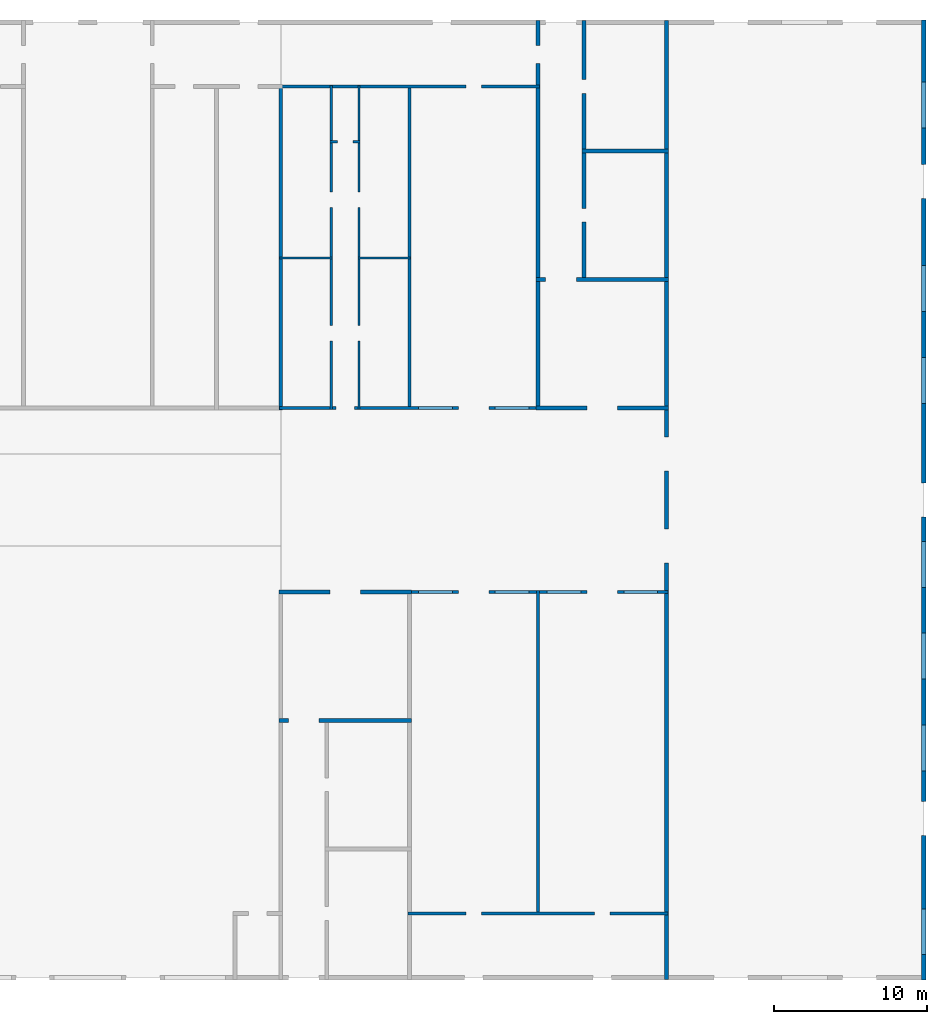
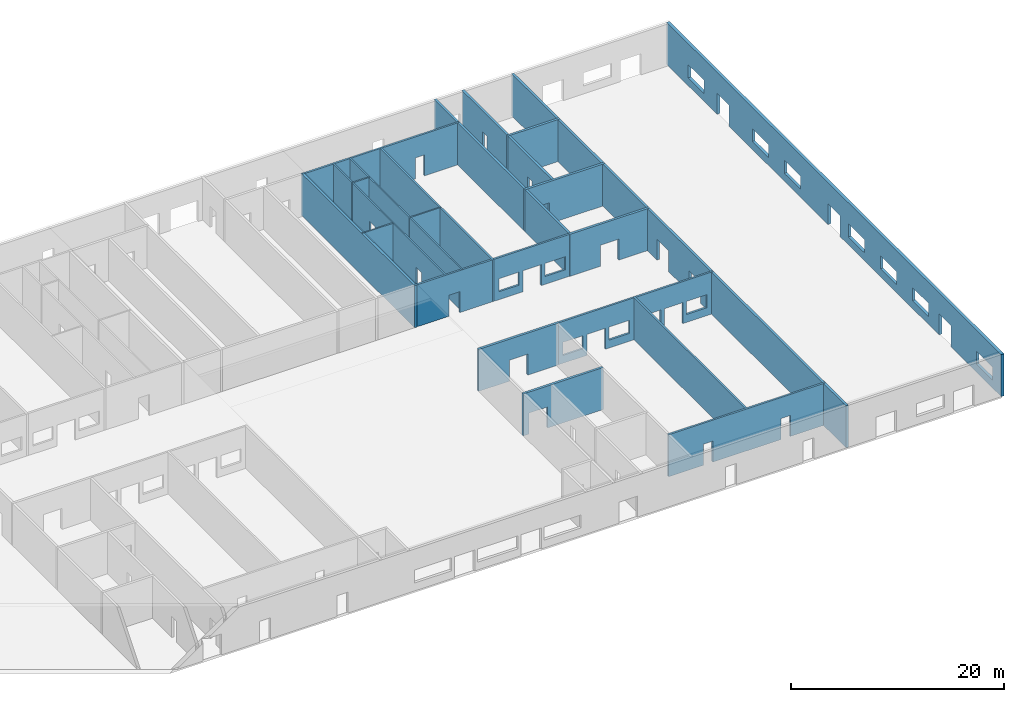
# One storey, part 3 of 3: 21 walls, 49 openings.
"""IFC4 building model written with IfcOpenShell, lengths in millimetres."""

from ifc_helpers import new_model, si_unit, frame, origin_with_axes, place, context, subcontext, project, spatial, indexed_curve, outline, extrude, type_object, element, save


model = new_model("IFC4")

# Units and contexts
model_context = context("Model", 3, precision=1e-05, world=origin_with_axes())
body_context = subcontext(model_context, "Body", "Model", "MODEL_VIEW")
ifc_project = project(units=[si_unit("AREAUNIT", "SQUARE_METRE"), si_unit("VOLUMEUNIT", "CUBIC_METRE"), si_unit("LENGTHUNIT", "METRE", prefix="MILLI")], contexts=[model_context])

# Site, building, storey
site = spatial("IfcSite", under=ifc_project, Name="PIN 00000000 (sample)")
building = spatial("IfcBuilding", under=site, Name="Sample Shopping Mall")
storey = spatial("IfcBuildingStorey", under=building, Name="Ground Floor", Elevation=0.0)

# Wall, openings
wall_type_1 = type_object("IfcWallType", Name="WT-300", PredefinedType="SOLIDWALL")
wall_1_placement = place(None, frame((114750.0, 15449.999999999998, 0.0), z_axis=(0.0, 0.0, 1.0), x_axis=(6.123233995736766e-17, 1.0, 0.0)))
wall_1 = element("IfcWall", 1, at=wall_1_placement, inside=storey, type_object=wall_type_1, Name="W59", context=body_context, shape_type="SweptSolid", body=[
    extrude(outline(indexed_curve([(0.0, 0.0), (0.0, 300.0), (62699.99999999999, 300.0), (62699.99999999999, 0.0), (0.0, 0.0)], self_intersect=False)), origin_with_axes(), (0.0, 0.0, 1.0), 4800.0),
])
opening_1_placement = place(wall_1_placement, frame((9450.0, -99.99999999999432, 0.0), z_axis=(0.0, 0.0, 1.0), x_axis=(1.0, 0.0, 0.0)))
element("IfcOpeningElement", 2, at=opening_1_placement, cuts=wall_1, Name="D16-opening", context=body_context, shape_type="SweptSolid", body=[
    extrude(outline(indexed_curve([(0.0, 0.0), (0.0, 500.0), (1100.0, 500.0), (1100.0, 0.0), (0.0, 0.0)], self_intersect=False)), origin_with_axes(), (0.0, 0.0, 1.0), 2400.0),
])
opening_2_placement = place(wall_1_placement, frame((10550.0, -99.99999999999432, 0.0), z_axis=(0.0, 0.0, 1.0), x_axis=(1.0, 0.0, 0.0)))
element("IfcOpeningElement", 3, at=opening_2_placement, cuts=wall_1, Name="-opening", context=body_context, shape_type="SweptSolid", body=[
    extrude(outline(indexed_curve([(0.0, 0.0), (0.0, 500.0), (1100.0, 500.0), (1100.0, 0.0), (0.0, 0.0)], self_intersect=False)), origin_with_axes(), (0.0, 0.0, 1.0), 2400.0),
])
opening_3_placement = place(wall_1_placement, frame((30250.000000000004, -99.99999999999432, 0.0), z_axis=(0.0, 0.0, 1.0), x_axis=(1.0, 0.0, 0.0)))
element("IfcOpeningElement", 4, at=opening_3_placement, cuts=wall_1, Name="D17-opening", context=body_context, shape_type="SweptSolid", body=[
    extrude(outline(indexed_curve([(0.0, 0.0), (0.0, 500.0), (1100.0, 500.0), (1100.0, 0.0), (0.0, 0.0)], self_intersect=False)), origin_with_axes(), (0.0, 0.0, 1.0), 2400.0),
])
opening_4_placement = place(wall_1_placement, frame((31349.999999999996, -99.99999999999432, 0.0), z_axis=(0.0, 0.0, 1.0), x_axis=(1.0, 0.0, 0.0)))
element("IfcOpeningElement", 5, at=opening_4_placement, cuts=wall_1, Name="-opening", context=body_context, shape_type="SweptSolid", body=[
    extrude(outline(indexed_curve([(0.0, 0.0), (0.0, 500.0), (1100.0, 500.0), (1100.0, 0.0), (0.0, 0.0)], self_intersect=False)), origin_with_axes(), (0.0, 0.0, 1.0), 2400.0),
])
opening_5_placement = place(wall_1_placement, frame((51049.99999999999, -99.99999999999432, 0.0), z_axis=(0.0, 0.0, 1.0), x_axis=(1.0, 0.0, 0.0)))
element("IfcOpeningElement", 6, at=opening_5_placement, cuts=wall_1, Name="D18-opening", context=body_context, shape_type="SweptSolid", body=[
    extrude(outline(indexed_curve([(0.0, 0.0), (0.0, 500.0), (1100.0, 500.0), (1100.0, 0.0), (0.0, 0.0)], self_intersect=False)), origin_with_axes(), (0.0, 0.0, 1.0), 2400.0),
])
opening_6_placement = place(wall_1_placement, frame((52149.99999999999, -99.99999999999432, 0.0), z_axis=(0.0, 0.0, 1.0), x_axis=(1.0, 0.0, 0.0)))
element("IfcOpeningElement", 7, at=opening_6_placement, cuts=wall_1, Name="-opening", context=body_context, shape_type="SweptSolid", body=[
    extrude(outline(indexed_curve([(0.0, 0.0), (0.0, 500.0), (1100.0, 500.0), (1100.0, 0.0), (0.0, 0.0)], self_intersect=False)), origin_with_axes(), (0.0, 0.0, 1.0), 2400.0),
])
opening_7_placement = place(wall_1_placement, frame((1650.000000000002, -99.99999999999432, 900.0), z_axis=(0.0, 0.0, 1.0), x_axis=(1.0, 0.0, 0.0)))
element("IfcOpeningElement", 8, at=opening_7_placement, cuts=wall_1, Name="-opening", context=body_context, shape_type="SweptSolid", body=[
    extrude(outline(indexed_curve([(0.0, 0.0), (0.0, 500.0), (3000.0, 500.0), (3000.0, 0.0), (0.0, 0.0)], self_intersect=False)), origin_with_axes(), (0.0, 0.0, 1.0), 1500.0),
])
opening_8_placement = place(wall_1_placement, frame((13650.000000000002, -99.99999999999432, 900.0), z_axis=(0.0, 0.0, 1.0), x_axis=(1.0, 0.0, 0.0)))
element("IfcOpeningElement", 9, at=opening_8_placement, cuts=wall_1, Name="-opening", context=body_context, shape_type="SweptSolid", body=[
    extrude(outline(indexed_curve([(0.0, 0.0), (0.0, 500.0), (3000.0, 500.0), (3000.0, 0.0), (0.0, 0.0)], self_intersect=False)), origin_with_axes(), (0.0, 0.0, 1.0), 1500.0),
])
opening_9_placement = place(wall_1_placement, frame((19650.0, -99.99999999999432, 900.0), z_axis=(0.0, 0.0, 1.0), x_axis=(1.0, 0.0, 0.0)))
element("IfcOpeningElement", 10, at=opening_9_placement, cuts=wall_1, Name="-opening", context=body_context, shape_type="SweptSolid", body=[
    extrude(outline(indexed_curve([(0.0, 0.0), (0.0, 500.0), (3000.0, 500.0), (3000.0, 0.0), (0.0, 0.0)], self_intersect=False)), origin_with_axes(), (0.0, 0.0, 1.0), 1500.0),
])
opening_10_placement = place(wall_1_placement, frame((25650.0, -99.99999999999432, 900.0), z_axis=(0.0, 0.0, 1.0), x_axis=(1.0, 0.0, 0.0)))
element("IfcOpeningElement", 11, at=opening_10_placement, cuts=wall_1, Name="-opening", context=body_context, shape_type="SweptSolid", body=[
    extrude(outline(indexed_curve([(0.0, 0.0), (0.0, 500.0), (3000.0, 500.0), (3000.0, 0.0), (0.0, 0.0)], self_intersect=False)), origin_with_axes(), (0.0, 0.0, 1.0), 1500.0),
])
opening_11_placement = place(wall_1_placement, frame((37650.00000000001, -99.99999999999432, 900.0), z_axis=(0.0, 0.0, 1.0), x_axis=(1.0, 0.0, 0.0)))
element("IfcOpeningElement", 12, at=opening_11_placement, cuts=wall_1, Name="-opening", context=body_context, shape_type="SweptSolid", body=[
    extrude(outline(indexed_curve([(0.0, 0.0), (0.0, 500.0), (3000.0, 500.0), (3000.0, 0.0), (0.0, 0.0)], self_intersect=False)), origin_with_axes(), (0.0, 0.0, 1.0), 1500.0),
])
opening_12_placement = place(wall_1_placement, frame((43650.00000000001, -99.99999999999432, 900.0), z_axis=(0.0, 0.0, 1.0), x_axis=(1.0, 0.0, 0.0)))
element("IfcOpeningElement", 13, at=opening_12_placement, cuts=wall_1, Name="-opening", context=body_context, shape_type="SweptSolid", body=[
    extrude(outline(indexed_curve([(0.0, 0.0), (0.0, 500.0), (3000.0, 500.0), (3000.0, 0.0), (0.0, 0.0)], self_intersect=False)), origin_with_axes(), (0.0, 0.0, 1.0), 1500.0),
])
opening_13_placement = place(wall_1_placement, frame((55650.00000000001, -99.99999999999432, 900.0), z_axis=(0.0, 0.0, 1.0), x_axis=(1.0, 0.0, 0.0)))
element("IfcOpeningElement", 14, at=opening_13_placement, cuts=wall_1, Name="-opening", context=body_context, shape_type="SweptSolid", body=[
    extrude(outline(indexed_curve([(0.0, 0.0), (0.0, 500.0), (3000.0, 500.0), (3000.0, 0.0), (0.0, 0.0)], self_intersect=False)), origin_with_axes(), (0.0, 0.0, 1.0), 1500.0),
])

wall_type_2 = type_object("IfcWallType", Name="WT-200", PredefinedType="SOLIDWALL")
wall_2_placement = place(None, frame((80900.0, 19700.0, 0.0), z_axis=(0.0, 0.0, 1.0), x_axis=(1.0, 0.0, 0.0)))
wall_2 = element("IfcWall", 15, at=wall_2_placement, inside=storey, type_object=wall_type_2, Name="W4", context=body_context, shape_type="SweptSolid", body=[
    extrude(outline(indexed_curve([(0.0, 0.0), (0.0, 200.0), (16999.999999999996, 200.0), (16999.999999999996, 0.0), (0.0, 0.0)], self_intersect=False)), origin_with_axes(), (0.0, 0.0, 1.0), 4800.0),
])
opening_14_placement = place(wall_2_placement, frame((3799.9999999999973, -99.99999999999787, 0.0), z_axis=(0.0, 0.0, 1.0), x_axis=(1.0, 0.0, 0.0)))
element("IfcOpeningElement", 16, at=opening_14_placement, cuts=wall_2, Name="-opening", context=body_context, shape_type="SweptSolid", body=[
    extrude(outline(indexed_curve([(0.0, 0.0), (0.0, 400.0), (1000.0, 400.0), (1000.0, 0.0), (0.0, 0.0)], self_intersect=False)), origin_with_axes(), (0.0, 0.0, 1.0), 2400.0),
])
opening_15_placement = place(wall_2_placement, frame((12199.999999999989, -99.99999999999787, 0.0), z_axis=(0.0, 0.0, 1.0), x_axis=(1.0, 0.0, 0.0)))
element("IfcOpeningElement", 17, at=opening_15_placement, cuts=wall_2, Name="-opening", context=body_context, shape_type="SweptSolid", body=[
    extrude(outline(indexed_curve([(0.0, 0.0), (0.0, 400.0), (1000.0, 400.0), (1000.0, 0.0), (0.0, 0.0)], self_intersect=False)), origin_with_axes(), (0.0, 0.0, 1.0), 2400.0),
])

wall_3_placement = place(None, frame((80900.0, 40699.99999999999, 0.0), z_axis=(0.0, 0.0, 1.0), x_axis=(1.0, 0.0, 0.0)))
wall_3 = element("IfcWall", 18, at=wall_3_placement, inside=storey, type_object=wall_type_2, Name="W12", context=body_context, shape_type="SweptSolid", body=[
    extrude(outline(indexed_curve([(0.0, 0.0), (0.0, 200.0), (16999.999999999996, 200.0), (16999.999999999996, 0.0), (0.0, 0.0)], self_intersect=False)), origin_with_axes(), (0.0, 0.0, 1.0), 4800.0),
])
opening_16_placement = place(wall_3_placement, frame((3299.9999999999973, -100.00000000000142, 0.0), z_axis=(0.0, 0.0, 1.0), x_axis=(1.0, 0.0, 0.0)))
element("IfcOpeningElement", 19, at=opening_16_placement, cuts=wall_3, Name="D46-opening", context=body_context, shape_type="SweptSolid", body=[
    extrude(outline(indexed_curve([(0.0, 0.0), (0.0, 400.0), (1000.0, 400.0), (1000.0, 0.0), (0.0, 0.0)], self_intersect=False)), origin_with_axes(), (0.0, 0.0, 1.0), 2400.0),
])
opening_17_placement = place(wall_3_placement, frame((4299.999999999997, -100.00000000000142, 0.0), z_axis=(0.0, 0.0, 1.0), x_axis=(1.0, 0.0, 0.0)))
element("IfcOpeningElement", 20, at=opening_17_placement, cuts=wall_3, Name="-opening", context=body_context, shape_type="SweptSolid", body=[
    extrude(outline(indexed_curve([(0.0, 0.0), (0.0, 400.0), (1000.0, 400.0), (1000.0, 0.0), (0.0, 0.0)], self_intersect=False)), origin_with_axes(), (0.0, 0.0, 1.0), 2400.0),
])
opening_18_placement = place(wall_3_placement, frame((11699.999999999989, -100.00000000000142, 0.0), z_axis=(0.0, 0.0, 1.0), x_axis=(1.0, 0.0, 0.0)))
element("IfcOpeningElement", 21, at=opening_18_placement, cuts=wall_3, Name="D48-opening", context=body_context, shape_type="SweptSolid", body=[
    extrude(outline(indexed_curve([(0.0, 0.0), (0.0, 400.0), (1000.0, 400.0), (1000.0, 0.0), (0.0, 0.0)], self_intersect=False)), origin_with_axes(), (0.0, 0.0, 1.0), 2400.0),
])
opening_19_placement = place(wall_3_placement, frame((12699.999999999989, -100.00000000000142, 0.0), z_axis=(0.0, 0.0, 1.0), x_axis=(1.0, 0.0, 0.0)))
element("IfcOpeningElement", 22, at=opening_19_placement, cuts=wall_3, Name="-opening", context=body_context, shape_type="SweptSolid", body=[
    extrude(outline(indexed_curve([(0.0, 0.0), (0.0, 400.0), (1000.0, 400.0), (1000.0, 0.0), (0.0, 0.0)], self_intersect=False)), origin_with_axes(), (0.0, 0.0, 1.0), 2400.0),
])
opening_20_placement = place(wall_3_placement, frame((699.9999999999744, -100.00000000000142, 900.0), z_axis=(0.0, 0.0, 1.0), x_axis=(1.0, 0.0, 0.0)))
element("IfcOpeningElement", 23, at=opening_20_placement, cuts=wall_3, Name="-opening", context=body_context, shape_type="SweptSolid", body=[
    extrude(outline(indexed_curve([(0.0, 0.0), (0.0, 400.0), (2200.0, 400.0), (2200.0, 0.0), (0.0, 0.0)], self_intersect=False)), origin_with_axes(), (0.0, 0.0, 1.0), 1500.0),
])
opening_21_placement = place(wall_3_placement, frame((5699.999999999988, -100.00000000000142, 900.0), z_axis=(0.0, 0.0, 1.0), x_axis=(1.0, 0.0, 0.0)))
element("IfcOpeningElement", 24, at=opening_21_placement, cuts=wall_3, Name="-opening", context=body_context, shape_type="SweptSolid", body=[
    extrude(outline(indexed_curve([(0.0, 0.0), (0.0, 400.0), (2200.0, 400.0), (2200.0, 0.0), (0.0, 0.0)], self_intersect=False)), origin_with_axes(), (0.0, 0.0, 1.0), 1500.0),
])
opening_22_placement = place(wall_3_placement, frame((9099.999999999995, -100.00000000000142, 900.0), z_axis=(0.0, 0.0, 1.0), x_axis=(1.0, 0.0, 0.0)))
element("IfcOpeningElement", 25, at=opening_22_placement, cuts=wall_3, Name="-opening", context=body_context, shape_type="SweptSolid", body=[
    extrude(outline(indexed_curve([(0.0, 0.0), (0.0, 400.0), (2200.0, 400.0), (2200.0, 0.0), (0.0, 0.0)], self_intersect=False)), origin_with_axes(), (0.0, 0.0, 1.0), 1500.0),
])
opening_23_placement = place(wall_3_placement, frame((14099.999999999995, -100.00000000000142, 900.0), z_axis=(0.0, 0.0, 1.0), x_axis=(1.0, 0.0, 0.0)))
element("IfcOpeningElement", 26, at=opening_23_placement, cuts=wall_3, Name="-opening", context=body_context, shape_type="SweptSolid", body=[
    extrude(outline(indexed_curve([(0.0, 0.0), (0.0, 400.0), (2200.0, 400.0), (2200.0, 0.0), (0.0, 0.0)], self_intersect=False)), origin_with_axes(), (0.0, 0.0, 1.0), 1500.0),
])

wall_4_placement = place(None, frame((72500.0, 52699.99999999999, 0.0), z_axis=(0.0, 0.0, 1.0), x_axis=(1.0, 0.0, 0.0)))
wall_4 = element("IfcWall", 27, at=wall_4_placement, inside=storey, type_object=wall_type_2, Name="W15", context=body_context, shape_type="SweptSolid", body=[
    extrude(outline(indexed_curve([(0.0, 0.0), (0.0, 200.0), (17000.00000000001, 200.0), (17000.00000000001, 0.0), (0.0, 0.0)], self_intersect=False)), origin_with_axes(), (0.0, 0.0, 1.0), 4800.0),
])
opening_24_placement = place(wall_4_placement, frame((3699.9999999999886, -100.00000000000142, 0.0), z_axis=(0.0, 0.0, 1.0), x_axis=(1.0, 0.0, 0.0)))
element("IfcOpeningElement", 28, at=opening_24_placement, cuts=wall_4, Name="D68-opening", context=body_context, shape_type="SweptSolid", body=[
    extrude(outline(indexed_curve([(0.0, 0.0), (0.0, 400.0), (1200.0, 400.0), (1200.0, 0.0), (0.0, 0.0)], self_intersect=False)), origin_with_axes(), (0.0, 0.0, 1.0), 2400.0),
])
opening_25_placement = place(wall_4_placement, frame((11699.999999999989, -100.00000000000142, 0.0), z_axis=(0.0, 0.0, 1.0), x_axis=(1.0, 0.0, 0.0)))
element("IfcOpeningElement", 29, at=opening_25_placement, cuts=wall_4, Name="D74-opening", context=body_context, shape_type="SweptSolid", body=[
    extrude(outline(indexed_curve([(0.0, 0.0), (0.0, 400.0), (1000.0, 400.0), (1000.0, 0.0), (0.0, 0.0)], self_intersect=False)), origin_with_axes(), (0.0, 0.0, 1.0), 2400.0),
])
opening_26_placement = place(wall_4_placement, frame((12699.999999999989, -100.00000000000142, 0.0), z_axis=(0.0, 0.0, 1.0), x_axis=(1.0, 0.0, 0.0)))
element("IfcOpeningElement", 30, at=opening_26_placement, cuts=wall_4, Name="-opening", context=body_context, shape_type="SweptSolid", body=[
    extrude(outline(indexed_curve([(0.0, 0.0), (0.0, 400.0), (1000.0, 400.0), (1000.0, 0.0), (0.0, 0.0)], self_intersect=False)), origin_with_axes(), (0.0, 0.0, 1.0), 2400.0),
])
opening_27_placement = place(wall_4_placement, frame((9099.99999999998, -100.00000000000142, 900.0), z_axis=(0.0, 0.0, 1.0), x_axis=(1.0, 0.0, 0.0)))
element("IfcOpeningElement", 31, at=opening_27_placement, cuts=wall_4, Name="-opening", context=body_context, shape_type="SweptSolid", body=[
    extrude(outline(indexed_curve([(0.0, 0.0), (0.0, 400.0), (2200.0, 400.0), (2200.0, 0.0), (0.0, 0.0)], self_intersect=False)), origin_with_axes(), (0.0, 0.0, 1.0), 1500.0),
])
opening_28_placement = place(wall_4_placement, frame((14099.999999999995, -100.00000000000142, 900.0), z_axis=(0.0, 0.0, 1.0), x_axis=(1.0, 0.0, 0.0)))
element("IfcOpeningElement", 32, at=opening_28_placement, cuts=wall_4, Name="-opening", context=body_context, shape_type="SweptSolid", body=[
    extrude(outline(indexed_curve([(0.0, 0.0), (0.0, 400.0), (2200.0, 400.0), (2200.0, 0.0), (0.0, 0.0)], self_intersect=False)), origin_with_axes(), (0.0, 0.0, 1.0), 1500.0),
])

# Wall, opening
wall_5_placement = place(None, frame((72500.0, 73700.0, 0.0), z_axis=(0.0, 0.0, 1.0), x_axis=(1.0, 0.0, 0.0)))
wall_5 = element("IfcWall", 33, at=wall_5_placement, inside=storey, type_object=wall_type_2, Name="W28", context=body_context, shape_type="SweptSolid", body=[
    extrude(outline(indexed_curve([(0.0, 0.0), (0.0, 200.0), (17000.00000000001, 200.0), (17000.00000000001, 0.0), (0.0, 0.0)], self_intersect=False)), origin_with_axes(), (0.0, 0.0, 1.0), 4800.0),
])
opening_29_placement = place(wall_5_placement, frame((12199.999999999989, -99.99999999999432, 0.0), z_axis=(0.0, 0.0, 1.0), x_axis=(1.0, 0.0, 0.0)))
element("IfcOpeningElement", 34, at=opening_29_placement, cuts=wall_5, Name="-opening", context=body_context, shape_type="SweptSolid", body=[
    extrude(outline(indexed_curve([(0.0, 0.0), (0.0, 400.0), (1000.0, 400.0), (1000.0, 0.0), (0.0, 0.0)], self_intersect=False)), origin_with_axes(), (0.0, 0.0, 1.0), 2400.0),
])

# Walls
wall_6_placement = place(None, frame((81099.99999999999, 52699.99999999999, 0.0), z_axis=(0.0, 0.0, 1.0), x_axis=(6.123233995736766e-17, 1.0, 0.0)))
element("IfcWall", 35, at=wall_6_placement, inside=storey, type_object=wall_type_2, Name="W54", context=body_context, shape_type="SweptSolid", body=[
    extrude(outline(indexed_curve([(0.0, 0.0), (0.0, 200.0), (21200.0, 200.0), (21200.0, 0.0), (0.0, 0.0)], self_intersect=False)), origin_with_axes(), (0.0, 0.0, 1.0), 4800.0),
])
wall_7_placement = place(None, frame((89500.0, 19700.0, 0.0), z_axis=(0.0, 0.0, 1.0), x_axis=(6.123233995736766e-17, 1.0, 0.0)))
element("IfcWall", 36, at=wall_7_placement, inside=storey, type_object=wall_type_2, Name="W55", context=body_context, shape_type="SweptSolid", body=[
    extrude(outline(indexed_curve([(0.0, 0.0), (0.0, 200.0), (21199.999999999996, 200.0), (21199.999999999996, 0.0), (0.0, 0.0)], self_intersect=False)), origin_with_axes(), (0.0, 0.0, 1.0), 4800.0),
])

# Wall, openings
wall_type_3 = type_object("IfcWallType", Name="WT-250", PredefinedType="SOLIDWALL")
wall_8_placement = place(None, frame((72475.0, 32274.999999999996, 0.0), z_axis=(0.0, 0.0, 1.0), x_axis=(1.0, 0.0, 0.0)))
wall_8 = element("IfcWall", 37, at=wall_8_placement, inside=storey, type_object=wall_type_3, Name="W8", context=body_context, shape_type="SweptSolid", body=[
    extrude(outline(indexed_curve([(0.0, 0.0), (0.0, 250.0), (8650.000000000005, 250.0), (8650.000000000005, 0.0), (0.0, 0.0)], self_intersect=False)), origin_with_axes(), (0.0, 0.0, 1.0), 4800.0),
])
opening_30_placement = place(wall_8_placement, frame((625.0, -100.00000000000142, 0.0), z_axis=(0.0, 0.0, 1.0), x_axis=(1.0, 0.0, 0.0)))
element("IfcOpeningElement", 38, at=opening_30_placement, cuts=wall_8, Name="D42-opening", context=body_context, shape_type="SweptSolid", body=[
    extrude(outline(indexed_curve([(0.0, 0.0), (0.0, 450.0), (1000.0, 450.0), (1000.0, 0.0), (0.0, 0.0)], self_intersect=False)), origin_with_axes(), (0.0, 0.0, 1.0), 2400.0),
])
opening_31_placement = place(wall_8_placement, frame((1625.0, -100.00000000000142, 0.0), z_axis=(0.0, 0.0, 1.0), x_axis=(1.0, 0.0, 0.0)))
element("IfcOpeningElement", 39, at=opening_31_placement, cuts=wall_8, Name="-opening", context=body_context, shape_type="SweptSolid", body=[
    extrude(outline(indexed_curve([(0.0, 0.0), (0.0, 450.0), (1000.0, 450.0), (1000.0, 0.0), (0.0, 0.0)], self_intersect=False)), origin_with_axes(), (0.0, 0.0, 1.0), 2400.0),
])

wall_9_placement = place(None, frame((72475.0, 40674.99999999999, 0.0), z_axis=(0.0, 0.0, 1.0), x_axis=(1.0, 0.0, 0.0)))
wall_9 = element("IfcWall", 40, at=wall_9_placement, inside=storey, type_object=wall_type_3, Name="W11", context=body_context, shape_type="SweptSolid", body=[
    extrude(outline(indexed_curve([(0.0, 0.0), (0.0, 250.0), (8650.000000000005, 250.0), (8650.000000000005, 0.0), (0.0, 0.0)], self_intersect=False)), origin_with_axes(), (0.0, 0.0, 1.0), 4800.0),
])
opening_32_placement = place(wall_9_placement, frame((3324.9999999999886, -99.99999999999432, 0.0), z_axis=(0.0, 0.0, 1.0), x_axis=(1.0, 0.0, 0.0)))
element("IfcOpeningElement", 41, at=opening_32_placement, cuts=wall_9, Name="D41-opening", context=body_context, shape_type="SweptSolid", body=[
    extrude(outline(indexed_curve([(0.0, 0.0), (0.0, 450.0), (1000.0, 450.0), (1000.0, 0.0), (0.0, 0.0)], self_intersect=False)), origin_with_axes(), (0.0, 0.0, 1.0), 2400.0),
])
opening_33_placement = place(wall_9_placement, frame((4324.999999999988, -99.99999999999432, 0.0), z_axis=(0.0, 0.0, 1.0), x_axis=(1.0, 0.0, 0.0)))
element("IfcOpeningElement", 42, at=opening_33_placement, cuts=wall_9, Name="-opening", context=body_context, shape_type="SweptSolid", body=[
    extrude(outline(indexed_curve([(0.0, 0.0), (0.0, 450.0), (1000.0, 450.0), (1000.0, 0.0), (0.0, 0.0)], self_intersect=False)), origin_with_axes(), (0.0, 0.0, 1.0), 2400.0),
])

wall_10_placement = place(None, frame((89275.0, 52674.99999999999, 0.0), z_axis=(0.0, 0.0, 1.0), x_axis=(1.0, 0.0, 0.0)))
wall_10 = element("IfcWall", 43, at=wall_10_placement, inside=storey, type_object=wall_type_3, Name="W16", context=body_context, shape_type="SweptSolid", body=[
    extrude(outline(indexed_curve([(0.0, 0.0), (0.0, 250.0), (8649.99999999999, 250.0), (8649.99999999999, 0.0), (0.0, 0.0)], self_intersect=False)), origin_with_axes(), (0.0, 0.0, 1.0), 4800.0),
])
opening_34_placement = place(wall_10_placement, frame((3325.0000000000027, -100.00000000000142, 0.0), z_axis=(0.0, 0.0, 1.0), x_axis=(1.0, 0.0, 0.0)))
element("IfcOpeningElement", 44, at=opening_34_placement, cuts=wall_10, Name="D76-opening", context=body_context, shape_type="SweptSolid", body=[
    extrude(outline(indexed_curve([(0.0, 0.0), (0.0, 450.0), (1000.0, 450.0), (1000.0, 0.0), (0.0, 0.0)], self_intersect=False)), origin_with_axes(), (0.0, 0.0, 1.0), 2400.0),
])
opening_35_placement = place(wall_10_placement, frame((4325.000000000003, -100.00000000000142, 0.0), z_axis=(0.0, 0.0, 1.0), x_axis=(1.0, 0.0, 0.0)))
element("IfcOpeningElement", 45, at=opening_35_placement, cuts=wall_10, Name="-opening", context=body_context, shape_type="SweptSolid", body=[
    extrude(outline(indexed_curve([(0.0, 0.0), (0.0, 450.0), (1000.0, 450.0), (1000.0, 0.0), (0.0, 0.0)], self_intersect=False)), origin_with_axes(), (0.0, 0.0, 1.0), 2400.0),
])

wall_11_placement = place(None, frame((89275.0, 61075.0, 0.0), z_axis=(0.0, 0.0, 1.0), x_axis=(1.0, 0.0, 0.0)))
wall_11 = element("IfcWall", 46, at=wall_11_placement, inside=storey, type_object=wall_type_3, Name="W17", context=body_context, shape_type="SweptSolid", body=[
    extrude(outline(indexed_curve([(0.0, 0.0), (0.0, 250.0), (8649.99999999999, 250.0), (8649.99999999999, 0.0), (0.0, 0.0)], self_intersect=False)), origin_with_axes(), (0.0, 0.0, 1.0), 4800.0),
])
opening_36_placement = place(wall_11_placement, frame((625.0, -100.00000000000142, 0.0), z_axis=(0.0, 0.0, 1.0), x_axis=(1.0, 0.0, 0.0)))
element("IfcOpeningElement", 47, at=opening_36_placement, cuts=wall_11, Name="D77-opening", context=body_context, shape_type="SweptSolid", body=[
    extrude(outline(indexed_curve([(0.0, 0.0), (0.0, 450.0), (1000.0, 450.0), (1000.0, 0.0), (0.0, 0.0)], self_intersect=False)), origin_with_axes(), (0.0, 0.0, 1.0), 2400.0),
])
opening_37_placement = place(wall_11_placement, frame((1625.0, -100.00000000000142, 0.0), z_axis=(0.0, 0.0, 1.0), x_axis=(1.0, 0.0, 0.0)))
element("IfcOpeningElement", 48, at=opening_37_placement, cuts=wall_11, Name="-opening", context=body_context, shape_type="SweptSolid", body=[
    extrude(outline(indexed_curve([(0.0, 0.0), (0.0, 450.0), (1000.0, 450.0), (1000.0, 0.0), (0.0, 0.0)], self_intersect=False)), origin_with_axes(), (0.0, 0.0, 1.0), 2400.0),
])

# Walls
wall_12_placement = place(None, frame((92275.0, 69475.0, 0.0), z_axis=(0.0, 0.0, 1.0), x_axis=(1.0, 0.0, 0.0)))
element("IfcWall", 49, at=wall_12_placement, inside=storey, type_object=wall_type_3, Name="W22", context=body_context, shape_type="SweptSolid", body=[
    extrude(outline(indexed_curve([(0.0, 0.0), (0.0, 250.0), (5649.999999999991, 250.0), (5649.999999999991, 0.0), (0.0, 0.0)], self_intersect=False)), origin_with_axes(), (0.0, 0.0, 1.0), 4800.0),
])
wall_13_placement = place(None, frame((72725.0, 52674.99999999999, 0.0), z_axis=(0.0, 0.0, 1.0), x_axis=(6.123233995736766e-17, 1.0, 0.0)))
element("IfcWall", 50, at=wall_13_placement, inside=storey, type_object=wall_type_3, Name="W49", context=body_context, shape_type="SweptSolid", body=[
    extrude(outline(indexed_curve([(0.0, 0.0), (0.0, 250.0), (21250.0, 250.0), (21250.0, 0.0), (0.0, 0.0)], self_intersect=False)), origin_with_axes(), (0.0, 0.0, 1.0), 4800.0),
])

# Wall, opening
wall_14_placement = place(None, frame((89525.0, 52674.99999999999, 0.0), z_axis=(0.0, 0.0, 1.0), x_axis=(6.123233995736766e-17, 1.0, 0.0)))
wall_14 = element("IfcWall", 51, at=wall_14_placement, inside=storey, type_object=wall_type_3, Name="W56", context=body_context, shape_type="SweptSolid", body=[
    extrude(outline(indexed_curve([(0.0, 0.0), (0.0, 250.0), (25450.000000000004, 250.0), (25450.000000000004, 0.0), (0.0, 0.0)], self_intersect=False)), origin_with_axes(), (0.0, 0.0, 1.0), 4800.0),
])
opening_38_placement = place(wall_14_placement, frame((22624.999999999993, -99.99999999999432, 0.0), z_axis=(0.0, 0.0, 1.0), x_axis=(1.0, 0.0, 0.0)))
element("IfcOpeningElement", 52, at=opening_38_placement, cuts=wall_14, Name="-opening", context=body_context, shape_type="SweptSolid", body=[
    extrude(outline(indexed_curve([(0.0, 0.0), (0.0, 450.0), (1200.0, 450.0), (1200.0, 0.0), (0.0, 0.0)], self_intersect=False)), origin_with_axes(), (0.0, 0.0, 1.0), 2400.0),
])

# Wall, openings
wall_15_placement = place(None, frame((92525.0, 61075.0, 0.0), z_axis=(0.0, 0.0, 1.0), x_axis=(6.123233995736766e-17, 1.0, 0.0)))
wall_15 = element("IfcWall", 53, at=wall_15_placement, inside=storey, type_object=wall_type_3, Name="W57", context=body_context, shape_type="SweptSolid", body=[
    extrude(outline(indexed_curve([(0.0, 0.0), (0.0, 250.0), (17049.999999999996, 250.0), (17049.999999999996, 0.0), (0.0, 0.0)], self_intersect=False)), origin_with_axes(), (0.0, 0.0, 1.0), 4800.0),
])
opening_39_placement = place(wall_15_placement, frame((3874.9999999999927, -99.99999999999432, 0.0), z_axis=(0.0, 0.0, 1.0), x_axis=(1.0, 0.0, 0.0)))
element("IfcOpeningElement", 54, at=opening_39_placement, cuts=wall_15, Name="-opening", context=body_context, shape_type="SweptSolid", body=[
    extrude(outline(indexed_curve([(0.0, 0.0), (0.0, 450.0), (900.0, 450.0), (900.0, 0.0), (0.0, 0.0)], self_intersect=False)), origin_with_axes(), (0.0, 0.0, 1.0), 2400.0),
])
opening_40_placement = place(wall_15_placement, frame((12274.999999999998, -99.99999999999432, 0.0), z_axis=(0.0, 0.0, 1.0), x_axis=(1.0, 0.0, 0.0)))
element("IfcOpeningElement", 55, at=opening_40_placement, cuts=wall_15, Name="-opening", context=body_context, shape_type="SweptSolid", body=[
    extrude(outline(indexed_curve([(0.0, 0.0), (0.0, 450.0), (900.0, 450.0), (900.0, 0.0), (0.0, 0.0)], self_intersect=False)), origin_with_axes(), (0.0, 0.0, 1.0), 2400.0),
])

wall_16_placement = place(None, frame((97925.0, 15475.0, 0.0), z_axis=(0.0, 0.0, 1.0), x_axis=(6.123233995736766e-17, 1.0, 0.0)))
wall_16 = element("IfcWall", 56, at=wall_16_placement, inside=storey, type_object=wall_type_3, Name="W58", context=body_context, shape_type="SweptSolid", body=[
    extrude(outline(indexed_curve([(0.0, 0.0), (0.0, 250.0), (62650.0, 250.0), (62650.0, 0.0), (0.0, 0.0)], self_intersect=False)), origin_with_axes(), (0.0, 0.0, 1.0), 4800.0),
])
opening_41_placement = place(wall_16_placement, frame((27225.000000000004, -99.99999999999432, 0.0), z_axis=(0.0, 0.0, 1.0), x_axis=(1.0, 0.0, 0.0)))
element("IfcOpeningElement", 57, at=opening_41_placement, cuts=wall_16, Name="D14-opening", context=body_context, shape_type="SweptSolid", body=[
    extrude(outline(indexed_curve([(0.0, 0.0), (0.0, 450.0), (1100.0, 450.0), (1100.0, 0.0), (0.0, 0.0)], self_intersect=False)), origin_with_axes(), (0.0, 0.0, 1.0), 2400.0),
])
opening_42_placement = place(wall_16_placement, frame((28325.0, -99.99999999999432, 0.0), z_axis=(0.0, 0.0, 1.0), x_axis=(1.0, 0.0, 0.0)))
element("IfcOpeningElement", 58, at=opening_42_placement, cuts=wall_16, Name="-opening", context=body_context, shape_type="SweptSolid", body=[
    extrude(outline(indexed_curve([(0.0, 0.0), (0.0, 450.0), (1100.0, 450.0), (1100.0, 0.0), (0.0, 0.0)], self_intersect=False)), origin_with_axes(), (0.0, 0.0, 1.0), 2400.0),
])
opening_43_placement = place(wall_16_placement, frame((33225.00000000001, -99.99999999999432, 0.0), z_axis=(0.0, 0.0, 1.0), x_axis=(1.0, 0.0, 0.0)))
element("IfcOpeningElement", 59, at=opening_43_placement, cuts=wall_16, Name="D15-opening", context=body_context, shape_type="SweptSolid", body=[
    extrude(outline(indexed_curve([(0.0, 0.0), (0.0, 450.0), (1100.0, 450.0), (1100.0, 0.0), (0.0, 0.0)], self_intersect=False)), origin_with_axes(), (0.0, 0.0, 1.0), 2400.0),
])
opening_44_placement = place(wall_16_placement, frame((34325.0, -99.99999999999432, 0.0), z_axis=(0.0, 0.0, 1.0), x_axis=(1.0, 0.0, 0.0)))
element("IfcOpeningElement", 60, at=opening_44_placement, cuts=wall_16, Name="-opening", context=body_context, shape_type="SweptSolid", body=[
    extrude(outline(indexed_curve([(0.0, 0.0), (0.0, 450.0), (1100.0, 450.0), (1100.0, 0.0), (0.0, 0.0)], self_intersect=False)), origin_with_axes(), (0.0, 0.0, 1.0), 2400.0),
])

# Walls
wall_type_4 = type_object("IfcWallType", Name="WT-150", PredefinedType="SOLIDWALL")
wall_17_placement = place(None, frame((72524.99999999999, 62525.0, 0.0), z_axis=(0.0, 0.0, 1.0), x_axis=(1.0, 0.0, 0.0)))
element("IfcWall", 61, at=wall_17_placement, inside=storey, type_object=wall_type_4, Name="W20", context=body_context, shape_type="SweptSolid", body=[
    extrude(outline(indexed_curve([(0.0, 0.0), (0.0, 150.0), (3450.0000000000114, 150.0), (3450.0000000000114, 0.0), (0.0, 0.0)], self_intersect=False)), origin_with_axes(), (0.0, 0.0, 1.0), 4800.0),
])
wall_18_placement = place(None, frame((77625.0, 62525.0, 0.0), z_axis=(0.0, 0.0, 1.0), x_axis=(1.0, 0.0, 0.0)))
element("IfcWall", 62, at=wall_18_placement, inside=storey, type_object=wall_type_4, Name="W21", context=body_context, shape_type="SweptSolid", body=[
    extrude(outline(indexed_curve([(0.0, 0.0), (0.0, 150.0), (3449.999999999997, 150.0), (3449.999999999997, 0.0), (0.0, 0.0)], self_intersect=False)), origin_with_axes(), (0.0, 0.0, 1.0), 4800.0),
])

# Wall, opening
wall_19_placement = place(None, frame((75825.0, 70125.0, 0.0), z_axis=(0.0, 0.0, 1.0), x_axis=(1.0, 0.0, 0.0)))
wall_19 = element("IfcWall", 63, at=wall_19_placement, inside=storey, type_object=wall_type_4, Name="W24", context=body_context, shape_type="SweptSolid", body=[
    extrude(outline(indexed_curve([(0.0, 0.0), (0.0, 150.0), (1949.999999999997, 150.0), (1949.999999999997, 0.0), (0.0, 0.0)], self_intersect=False)), origin_with_axes(), (0.0, 0.0, 1.0), 4800.0),
])
opening_45_placement = place(wall_19_placement, frame((475.0000000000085, -99.99999999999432, 0.0), z_axis=(0.0, 0.0, 1.0), x_axis=(1.0, 0.0, 0.0)))
element("IfcOpeningElement", 64, at=opening_45_placement, cuts=wall_19, Name="-opening", context=body_context, shape_type="SweptSolid", body=[
    extrude(outline(indexed_curve([(0.0, 0.0), (0.0, 349.99999999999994), (1000.0, 349.99999999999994), (1000.0, 0.0), (0.0, 0.0)], self_intersect=False)), origin_with_axes(), (0.0, 0.0, 1.0), 2400.0),
])

# Wall, openings
wall_20_placement = place(None, frame((75975.0, 52724.99999999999, 0.0), z_axis=(0.0, 0.0, 1.0), x_axis=(6.123233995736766e-17, 1.0, 0.0)))
wall_20 = element("IfcWall", 65, at=wall_20_placement, inside=storey, type_object=wall_type_4, Name="W51", context=body_context, shape_type="SweptSolid", body=[
    extrude(outline(indexed_curve([(0.0, 0.0), (0.0, 150.0), (21149.999999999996, 150.0), (21149.999999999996, 0.0), (0.0, 0.0)], self_intersect=False)), origin_with_axes(), (0.0, 0.0, 1.0), 4800.0),
])
opening_46_placement = place(wall_20_placement, frame((4475.000000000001, -99.99999999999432, 0.0), z_axis=(0.0, 0.0, 1.0), x_axis=(1.0, 0.0, 0.0)))
element("IfcOpeningElement", 66, at=opening_46_placement, cuts=wall_20, Name="-opening", context=body_context, shape_type="SweptSolid", body=[
    extrude(outline(indexed_curve([(0.0, 0.0), (0.0, 349.99999999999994), (1000.0, 349.99999999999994), (1000.0, 0.0), (0.0, 0.0)], self_intersect=False)), origin_with_axes(), (0.0, 0.0, 1.0), 2400.0),
])
opening_47_placement = place(wall_20_placement, frame((13174.999999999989, -99.99999999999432, 0.0), z_axis=(0.0, 0.0, 1.0), x_axis=(1.0, 0.0, 0.0)))
element("IfcOpeningElement", 67, at=opening_47_placement, cuts=wall_20, Name="-opening", context=body_context, shape_type="SweptSolid", body=[
    extrude(outline(indexed_curve([(0.0, 0.0), (0.0, 349.99999999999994), (1000.0, 349.99999999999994), (1000.0, 0.0), (0.0, 0.0)], self_intersect=False)), origin_with_axes(), (0.0, 0.0, 1.0), 2400.0),
])

wall_21_placement = place(None, frame((77775.0, 52724.99999999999, 0.0), z_axis=(0.0, 0.0, 1.0), x_axis=(6.123233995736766e-17, 1.0, 0.0)))
wall_21 = element("IfcWall", 68, at=wall_21_placement, inside=storey, type_object=wall_type_4, Name="W52", context=body_context, shape_type="SweptSolid", body=[
    extrude(outline(indexed_curve([(0.0, 0.0), (0.0, 150.0), (21149.999999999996, 150.0), (21149.999999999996, 0.0), (0.0, 0.0)], self_intersect=False)), origin_with_axes(), (0.0, 0.0, 1.0), 4800.0),
])
opening_48_placement = place(wall_21_placement, frame((4475.000000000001, -99.99999999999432, 0.0), z_axis=(0.0, 0.0, 1.0), x_axis=(1.0, 0.0, 0.0)))
element("IfcOpeningElement", 69, at=opening_48_placement, cuts=wall_21, Name="-opening", context=body_context, shape_type="SweptSolid", body=[
    extrude(outline(indexed_curve([(0.0, 0.0), (0.0, 349.99999999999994), (1000.0, 349.99999999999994), (1000.0, 0.0), (0.0, 0.0)], self_intersect=False)), origin_with_axes(), (0.0, 0.0, 1.0), 2400.0),
])
opening_49_placement = place(wall_21_placement, frame((13174.999999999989, -99.99999999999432, 0.0), z_axis=(0.0, 0.0, 1.0), x_axis=(1.0, 0.0, 0.0)))
element("IfcOpeningElement", 70, at=opening_49_placement, cuts=wall_21, Name="-opening", context=body_context, shape_type="SweptSolid", body=[
    extrude(outline(indexed_curve([(0.0, 0.0), (0.0, 349.99999999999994), (1000.0, 349.99999999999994), (1000.0, 0.0), (0.0, 0.0)], self_intersect=False)), origin_with_axes(), (0.0, 0.0, 1.0), 2400.0),
])

save(model, "model.ifc")
